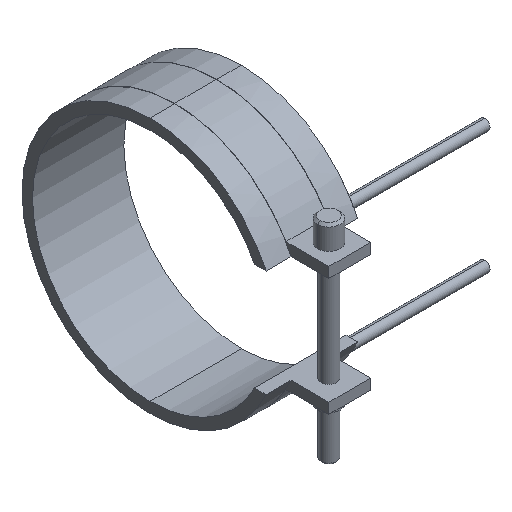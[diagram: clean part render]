
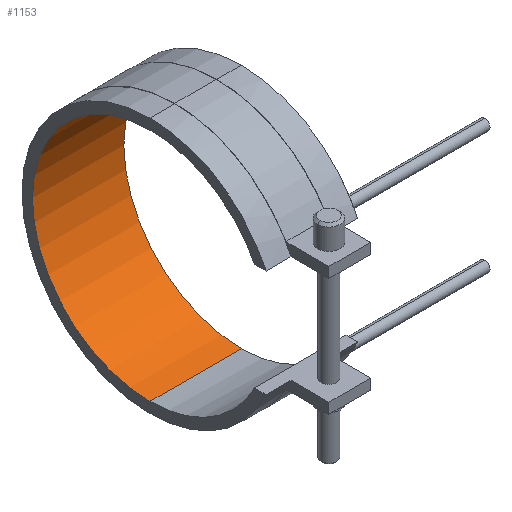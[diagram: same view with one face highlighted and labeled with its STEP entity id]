
A CAD part, isometric view. The second image highlights one B-rep face of the part: STEP entity #1153.
In plain terms, the highlighted cylindrical face has radius 45 mm (diameter 90 mm), a partial arc.
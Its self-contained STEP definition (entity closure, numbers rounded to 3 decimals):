
#834=CARTESIAN_POINT('Vertex',(-17.5,0.,-45.)) ;
#841=CARTESIAN_POINT('Vertex',(17.5,0.,-45.)) ;
#844=CARTESIAN_POINT('Line Origine',(17.5,0.,-45.)) ;
#862=CARTESIAN_POINT('Axis2P3D Location',(-17.5,0.,0.)) ;
#866=CARTESIAN_POINT('Vertex',(-17.5,0.,45.)) ;
#923=CARTESIAN_POINT('Vertex',(17.5,0.,45.)) ;
#933=CARTESIAN_POINT('Line Origine',(17.5,0.,45.)) ;
#1024=CARTESIAN_POINT('Axis2P3D Location',(17.5,0.,0.)) ;
#1142=CARTESIAN_POINT('Axis2P3D Location',(17.5,0.,0.)) ;
#845=DIRECTION('Vector Direction',(1.,0.,0.)) ;
#863=DIRECTION('Axis2P3D Direction',(1.,0.,0.)) ;
#934=DIRECTION('Vector Direction',(1.,0.,0.)) ;
#1025=DIRECTION('Axis2P3D Direction',(1.,0.,0.)) ;
#1143=DIRECTION('Axis2P3D Direction',(1.,0.,-0.)) ;
#1144=DIRECTION('Axis2P3D XDirection',(0.,0.,-1.)) ;
#864=AXIS2_PLACEMENT_3D('Circle Axis2P3D',#862,#863,$) ;
#1026=AXIS2_PLACEMENT_3D('Circle Axis2P3D',#1024,#1025,$) ;
#1145=AXIS2_PLACEMENT_3D('Cylinder Axis2P3D',#1142,#1143,#1144) ;
#1148=ORIENTED_EDGE('',*,*,#1028,.T.) ;
#1149=ORIENTED_EDGE('',*,*,#937,.T.) ;
#1150=ORIENTED_EDGE('',*,*,#868,.F.) ;
#1151=ORIENTED_EDGE('',*,*,#848,.T.) ;
#846=VECTOR('Line Direction',#845,1.) ;
#935=VECTOR('Line Direction',#934,1.) ;
#1153=ADVANCED_FACE('14090035',(#1152),#1146,.F.) ;
#865=CIRCLE('generated circle',#864,45.) ;
#1027=CIRCLE('generated circle',#1026,45.) ;
#1146=CYLINDRICAL_SURFACE('generated cylinder',#1145,45.) ;
#848=EDGE_CURVE('',#835,#842,#847,.T.) ;
#868=EDGE_CURVE('',#835,#867,#865,.T.) ;
#937=EDGE_CURVE('',#924,#867,#936,.F.) ;
#1028=EDGE_CURVE('',#842,#924,#1027,.T.) ;
#1147=EDGE_LOOP('',(#1148,#1149,#1150,#1151)) ;
#1152=FACE_OUTER_BOUND('',#1147,.T.) ;
#847=LINE('Line',#844,#846) ;
#936=LINE('Line',#933,#935) ;
#835=VERTEX_POINT('',#834) ;
#842=VERTEX_POINT('',#841) ;
#867=VERTEX_POINT('',#866) ;
#924=VERTEX_POINT('',#923) ;
